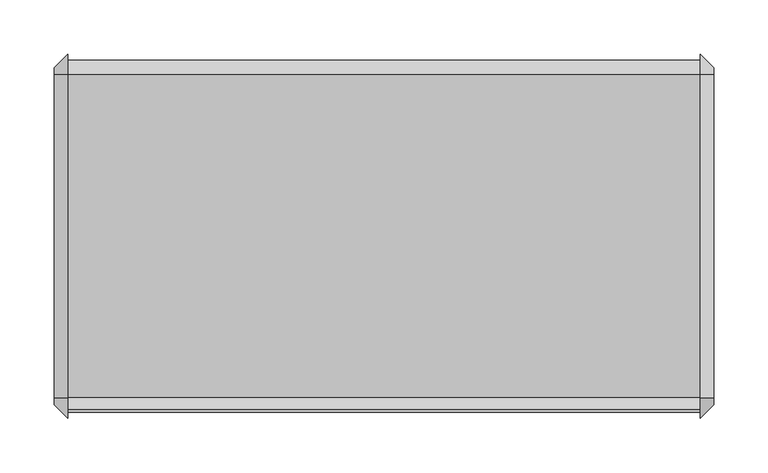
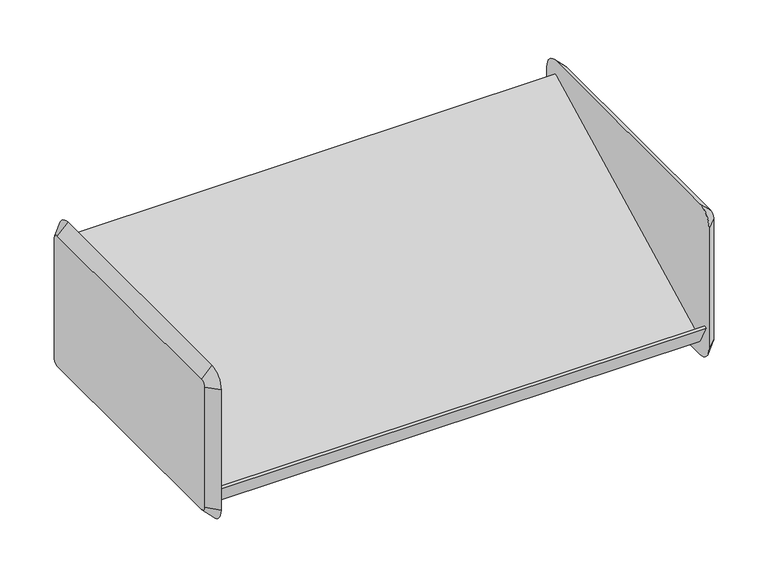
"""IFC4 building model written with IfcOpenShell, lengths in millimetres: furniture geometry."""

import ifcopenshell
import ifcopenshell.guid

model = None  # the IFC model being written
_history = None  # IfcOwnerHistory: only IFC2X3 demands one
_inside = {}  # id of a spatial element -> (the spatial element, [elements in it])
_under = {}  # id of a project, library or spatial element -> (it, [spatial elements below it])
_declared = {}  # id of a project -> (the project, [libraries it declares])
_typed = {}  # id of a type object -> (the type object, [elements of that type])
_made_of = {}  # id of a material, layer set ... -> (it, [elements and type objects made of it])


def new_model(schema):
    """Start an empty IFC model of exactly this schema.

    Asked for "IFC4X3", IfcOpenShell would pick the latest addendum, in which some entities
    have other attributes; the version numbers below select the first issue.
    IFC2X3 requires an IfcOwnerHistory on every rooted entity: one is made here for all.
    """
    global model, _history
    if schema == "IFC4X3":
        model = ifcopenshell.file(schema_version=(4, 3, 0, 0))
    else:
        model = ifcopenshell.file(schema=schema)
    _inside.clear()
    _under.clear()
    _declared.clear()
    _typed.clear()
    _made_of.clear()
    _history = None
    if model.schema == "IFC2X3":
        org = make("IfcOrganization", Name="unknown")
        user = make(
            "IfcPersonAndOrganization",
            ThePerson=make("IfcPerson", FamilyName="unknown"),
            TheOrganization=org,
        )
        app = make(
            "IfcApplication",
            ApplicationDeveloper=org,
            Version="unknown",
            ApplicationFullName="unknown",
            ApplicationIdentifier="unknown",
        )
        _history = make(
            "IfcOwnerHistory",
            OwningUser=user,
            OwningApplication=app,
            ChangeAction="ADDED",
            CreationDate=0,
        )
    return model


def make(cls, **values):
    """One entity of the class cls with the attributes given. An attribute that is None is left unset."""
    return model.create_entity(
        cls, **{name: value for name, value in values.items() if value is not None}
    )


def rooted(cls, **values):
    """An entity with a GlobalId (a new one), such as an element, a storey or a relation."""
    return make(cls, GlobalId=ifcopenshell.guid.new(), OwnerHistory=_history, **values)


def si_unit(unit_type, name, prefix=None):
    """IfcSIUnit, for example si_unit("LENGTHUNIT", "METRE", prefix="MILLI")."""
    return make("IfcSIUnit", UnitType=unit_type, Prefix=prefix, Name=name)


def assignment(units):
    """IfcUnitAssignment: the units of a project."""
    return None if units is None else make("IfcUnitAssignment", Units=units)


def point(xyz):
    """IfcCartesianPoint."""
    return None if xyz is None else make("IfcCartesianPoint", Coordinates=xyz)


def direction(xyz):
    """IfcDirection."""
    return None if xyz is None else make("IfcDirection", DirectionRatios=xyz)


def frame(location, z_axis=None, x_axis=None):
    """IfcAxis2Placement3D, a coordinate frame: its origin and axes. An axis left out is left unset."""
    return make(
        "IfcAxis2Placement3D",
        Location=point(location),
        Axis=direction(z_axis),
        RefDirection=direction(x_axis),
    )


def origin():
    """The frame at (0, 0, 0) with its axes left unset."""
    return frame((0.0, 0.0, 0.0))


def place(relative_to, where):
    """IfcLocalPlacement: puts the frame where relative to a parent placement (None: the world)."""
    return make(
        "IfcLocalPlacement", PlacementRelTo=relative_to, RelativePlacement=where
    )


def context(
    kind, dimensions, precision=None, world=None, true_north=None, identifier=None
):
    """IfcGeometricRepresentationContext, for example the 3D "Model" context."""
    return make(
        "IfcGeometricRepresentationContext",
        ContextIdentifier=identifier,
        ContextType=kind,
        CoordinateSpaceDimension=dimensions,
        Precision=precision,
        WorldCoordinateSystem=world,
        TrueNorth=true_north,
    )


def project(units=None, contexts=None):
    """IfcProject with its units and contexts."""
    return rooted(
        "IfcProject",
        Name="project",
        RepresentationContexts=contexts,
        UnitsInContext=assignment(units),
    )


def spatial(cls, under=None, at=None, **own):
    """A site, building, storey or space (cls), placed at a placement, below another one or the project."""
    s = rooted(cls, ObjectPlacement=at, **own)
    if under is not None:
        _under.setdefault(under.id(), (under, []))[1].append(s)
    return s


def polyline(points):
    """IfcPolyline through the points."""
    return make("IfcPolyline", Points=[point(p) for p in points])


def circle_curve(where, radius):
    """IfcCircle in the frame where."""
    return make("IfcCircle", Position=where, Radius=radius)


def outline(outer, holes=None, kind="AREA"):
    """IfcArbitraryClosedProfileDef: a profile drawn as a closed curve; with holes, ...WithVoids."""
    if holes is None:
        return make("IfcArbitraryClosedProfileDef", ProfileType=kind, OuterCurve=outer)
    return make(
        "IfcArbitraryProfileDefWithVoids",
        ProfileType=kind,
        OuterCurve=outer,
        InnerCurves=holes,
    )


def extrude(swept, where, along, depth):
    """IfcExtrudedAreaSolid: the profile swept, set in the frame where, extruded along a direction by depth."""
    return make(
        "IfcExtrudedAreaSolid",
        SweptArea=swept,
        Position=where,
        ExtrudedDirection=direction(along),
        Depth=depth,
    )


def shape(context_of_items, identifier, shape_type, items):
    """IfcShapeRepresentation: the items that make up one representation, for example the "Body"."""
    return make(
        "IfcShapeRepresentation",
        ContextOfItems=context_of_items,
        RepresentationIdentifier=identifier,
        RepresentationType=shape_type,
        Items=items,
    )


def source(mapping_origin, context_of_items, identifier, shape_type, items):
    """IfcRepresentationMap: a shape defined once, which mapped items show again and again."""
    return make(
        "IfcRepresentationMap",
        MappingOrigin=mapping_origin,
        MappedRepresentation=shape(context_of_items, identifier, shape_type, items),
    )


def transform(
    local_origin,
    x_axis=None,
    y_axis=None,
    z_axis=None,
    scale=None,
    scale2=None,
    scale3=None,
    uniform=True,
):
    """IfcCartesianTransformationOperator3D, or its non-uniform kind. x_axis, y_axis, z_axis: its Axis1, 2, 3."""
    if uniform:
        return make(
            "IfcCartesianTransformationOperator3D",
            Axis1=direction(x_axis),
            Axis2=direction(y_axis),
            LocalOrigin=point(local_origin),
            Scale=scale,
            Axis3=direction(z_axis),
        )
    return make(
        "IfcCartesianTransformationOperator3DnonUniform",
        Axis1=direction(x_axis),
        Axis2=direction(y_axis),
        LocalOrigin=point(local_origin),
        Scale=scale,
        Axis3=direction(z_axis),
        Scale2=scale2,
        Scale3=scale3,
    )


def mapped(mapping_source, mapping_target):
    """IfcMappedItem: shows the shape of a source again, moved by a transform."""
    return make(
        "IfcMappedItem", MappingSource=mapping_source, MappingTarget=mapping_target
    )


def made_of(thing, what):
    """Note that an element or type object is made of a material, layer set ...; save() writes the relation."""
    if what is not None:
        _made_of.setdefault(what.id(), (what, []))[1].append(thing)
    return thing


def element(
    cls,
    number,
    at=None,
    inside=None,
    cuts=None,
    type_object=None,
    material=None,
    context=None,
    identifier="Body",
    shape_type=None,
    held_by="IfcProductDefinitionShape",
    body=None,
    shapes=None,
    **own,
):
    """One element of the class cls, such as IfcWall. Its Tag is "e" and its number.

    at: its placement. inside: the storey or other place that contains it. cuts: it is an
    opening in that element (IfcRelVoidsElement). A single representation is given by context,
    identifier, shape_type and body (its items); several are given by shapes. held_by: the class
    of the entity that holds the representations. save() writes the other relations.
    """
    e = rooted(cls, Tag="e%d" % number, ObjectPlacement=at, **own)
    if body is not None:
        shapes = [shape(context, identifier, shape_type, body)]
    if shapes is not None:
        e.Representation = make(held_by, Representations=shapes)
    if inside is not None:
        _inside.setdefault(inside.id(), (inside, []))[1].append(e)
    if cuts is not None:
        rooted(
            "IfcRelVoidsElement", RelatingBuildingElement=cuts, RelatedOpeningElement=e
        )
    if type_object is not None:
        _typed.setdefault(type_object.id(), (type_object, []))[1].append(e)
    return made_of(e, material)


def aggregate(whole, parts):
    """IfcRelAggregates: a whole, such as a stair, and the parts it consists of."""
    return rooted("IfcRelAggregates", RelatingObject=whole, RelatedObjects=parts)


def save(model, path):
    """Write the relations noted so far, then the file.

    IfcRelAggregates (storeys below a building ...), IfcRelContainedInSpatialStructure (elements
    in a storey), IfcRelDefinesByType, IfcRelAssociatesMaterial and IfcRelDeclares: one each for
    every whole, place, type object, material and project.
    """
    for whole, parts in _under.values():
        aggregate(whole, parts)
    for where, things in _inside.values():
        rooted(
            "IfcRelContainedInSpatialStructure",
            RelatedElements=things,
            RelatingStructure=where,
        )
    for kind, things in _typed.values():
        rooted("IfcRelDefinesByType", RelatedObjects=things, RelatingType=kind)
    for what, things in _made_of.values():
        rooted("IfcRelAssociatesMaterial", RelatedObjects=things, RelatingMaterial=what)
    for by, libraries in _declared.values():
        rooted("IfcRelDeclares", RelatingContext=by, RelatedDefinitions=libraries)
    model.write(path)


def plane_surface(at):
    """IfcPlane: the flat surface through the origin of the frame at, square to its z axis."""
    return make("IfcPlane", Position=at)


def revolved_surface(curve, axis_point, axis_direction):
    """IfcSurfaceOfRevolution: the curve turned about the line through axis_point along axis_direction."""
    return make(
        "IfcSurfaceOfRevolution",
        SweptCurve=make("IfcArbitraryOpenProfileDef", ProfileType="CURVE", Curve=curve),
        AxisPosition=make("IfcAxis1Placement", Location=point(axis_point), Axis=direction(axis_direction)),
    )


def advanced_brep(points, edges, surfaces, faces):
    """IfcAdvancedBrep: a solid bounded by faces that lie on surfaces and meet in shared edges.

    An edge is (start, end): straight between two places in points (the first is 0);
    or (start, end, curve); or (start, end, curve, False) where it runs against its curve.
    A face is (place in surfaces, loops), or (place, loops, False) where it looks against
    its surface's normal. A loop lists edges by number (the first is 1), with a minus sign
    where the edge is run from its end to its start. The first loop is the outer one.
    """
    corners = [point(p) for p in points]
    vertices = [make("IfcVertexPoint", VertexGeometry=c) for c in corners]
    made = []
    for start, end, *more in edges:
        made.append(
            make(
                "IfcEdgeCurve",
                EdgeStart=vertices[start],
                EdgeEnd=vertices[end],
                EdgeGeometry=more[0] if more else make("IfcPolyline", Points=[corners[start], corners[end]]),
                SameSense=more[1] if len(more) > 1 else True,
            )
        )
    hull = []
    for where, loops, *sense in faces:
        bounds = []
        for j, loop in enumerate(loops):
            ring = [make("IfcOrientedEdge", EdgeElement=made[abs(k) - 1], Orientation=k > 0) for k in loop]
            bounds.append(
                make(
                    "IfcFaceOuterBound" if j == 0 else "IfcFaceBound",
                    Bound=make("IfcEdgeLoop", EdgeList=ring),
                    Orientation=True,
                )
            )
        hull.append(make("IfcAdvancedFace", Bounds=bounds, FaceSurface=surfaces[where], SameSense=sense[0] if sense else True))
    return make("IfcAdvancedBrep", Outer=make("IfcClosedShell", CfsFaces=hull))


def furniture_aef38361(model_context):
    return source(origin(), model_context, "Body", "SolidModel", [
        advanced_brep(
        [(180.8579955, 161.925, 1485.9), (180.8579955, -136.525, 1485.9), (180.8579955, -142.875, 1479.55), (180.8579955, -142.875, 1327.15), (180.8579955, -136.525, 1320.8), (180.8579955, 161.925, 1320.8), (180.8579955, 168.275, 1327.15), (180.8579955, 168.275, 1479.55), (168.1579955, 161.925, 1498.6), (168.1579955, 180.975, 1479.55), (168.1579955, 180.975, 1327.15), (168.1579955, 161.925, 1308.1), (168.1579955, -136.525, 1308.1), (168.1579955, -155.575, 1327.15), (168.1579955, -155.575, 1479.55), (168.1579955, -136.525, 1498.6)],
        [
            (0, 1),
            (1, 2, circle_curve(frame((180.8579955, -136.525, 1479.55), z_axis=(1.0, 2.0730084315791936e-12, -2.1742607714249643e-12), x_axis=(2.1742640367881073e-12, 0.0, 1.0)), 6.35)),
            (2, 3),
            (3, 4, circle_curve(frame((180.8579955, -136.525, 1327.15), z_axis=(1.0, 2.059685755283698e-12, 2.025046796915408e-12), x_axis=(2.059647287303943e-12, -1.0, 0.0)), 6.35)),
            (4, 5),
            (5, 6, circle_curve(frame((180.8579955, 161.925, 1327.15), z_axis=(1.0, 2.088995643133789e-12, -2.1103119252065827e-12), x_axis=(-2.1103612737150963e-12, 0.0, -1.0)), 6.35)),
            (6, 7),
            (7, 0, circle_curve(frame((180.8579955, 161.925, 1479.55), z_axis=(1.0, 2.075672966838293e-12, 1.9824142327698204e-12), x_axis=(-2.075662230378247e-12, 1.0, 0.0)), 6.35)),
            (8, 9, circle_curve(frame((168.1579955, 161.925, 1479.55), z_axis=(-1.0, -2.075672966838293e-12, -1.9824142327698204e-12), x_axis=(-2.075662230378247e-12, 1.0, 0.0)), 19.05)),
            (9, 10),
            (10, 11, circle_curve(frame((168.1579955, 161.925, 1327.15), z_axis=(-1.0, -2.088995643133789e-12, 2.1103119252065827e-12), x_axis=(-2.1103612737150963e-12, 0.0, -1.0)), 19.05)),
            (11, 12),
            (12, 13, circle_curve(frame((168.1579955, -136.525, 1327.15), z_axis=(-1.0, -2.059685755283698e-12, -2.025046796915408e-12), x_axis=(2.059647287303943e-12, -1.0, 0.0)), 19.05)),
            (13, 14),
            (14, 15, circle_curve(frame((168.1579955, -136.525, 1479.55), z_axis=(-1.0, -2.0730084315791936e-12, 2.1742607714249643e-12), x_axis=(2.1742640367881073e-12, 0.0, 1.0)), 19.05)),
            (15, 8),
            (15, 1),
            (0, 8),
            (14, 2),
            (13, 3),
            (12, 4),
            (11, 5),
            (10, 6),
            (9, 7),
        ],
        [
            plane_surface(frame((180.8579955, 12.7, 1403.35), z_axis=(1.0, 0.0, 0.0), x_axis=(0.0, -1.0, 0.0))),
            plane_surface(frame((168.1579955, 12.7, 1403.35), z_axis=(-1.0, 0.0, 0.0), x_axis=(0.0, -1.0, 0.0))),
            plane_surface(frame((168.1579955, 12.7, 1498.6), z_axis=(0.7071067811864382, 0.0, 0.7071067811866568), x_axis=(0.0, -1.0, 0.0))),
            revolved_surface(polyline([(180.8579955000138, -136.525, 1485.8999999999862), (168.1579955, -136.525, 1498.6)]), (187.2079955, -136.525, 1479.55), (-1.0, -2.0730084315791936e-12, 2.1742607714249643e-12)),
            plane_surface(frame((168.1579955, -155.575, 1403.35), z_axis=(0.707106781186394, -0.7071067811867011, 0.0), x_axis=(0.0, 0.0, -1.0))),
            revolved_surface(polyline([(180.85799550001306, -142.87499999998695, 1327.15), (168.1579955, -155.575, 1327.15)]), (187.2079955, -136.525, 1327.15), (-1.0, -2.059685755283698e-12, -2.025046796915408e-12)),
            plane_surface(frame((168.1579955, 12.7, 1308.1), z_axis=(0.7071067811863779, 0.0, -0.7071067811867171), x_axis=(0.0, 1.0, 0.0))),
            revolved_surface(polyline([(180.8579955, 161.925, 1320.8), (168.15799549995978, 161.925, 1308.0999999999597)]), (187.2079955, 161.925, 1327.15), (-1.0, -2.088995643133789e-12, 2.1103119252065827e-12)),
            plane_surface(frame((168.1579955, 180.975, 1403.35), z_axis=(0.707106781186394, 0.7071067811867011, 0.0), x_axis=(0.0, 0.0, 1.0))),
            revolved_surface(polyline([(180.8579955, 168.27500000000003, 1479.55), (168.15799549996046, 180.97500000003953, 1479.55)]), (187.2079955, 161.925, 1479.55), (-1.0, -2.075672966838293e-12, -1.9824142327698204e-12)),
        ],
        [
            (0, [[1, 2, 3, 4, 5, 6, 7, 8]]),
            (1, [[9, 10, 11, 12, 13, 14, 15, 16]]),
            (2, [[-16, 17, -1, 18]]),
            (3, [[-15, 19, -2, -17]]),
            (4, [[-14, 20, -3, -19]]),
            (5, [[-13, 21, -4, -20]]),
            (6, [[-12, 22, -5, -21]]),
            (7, [[-11, 23, -6, -22]]),
            (8, [[-10, 24, -7, -23]]),
            (9, [[-9, -18, -8, -24]]),
        ],
    ),
        advanced_brep(
        [(-428.7420045, -136.525, 1485.9), (-428.7420045, 161.925, 1485.9), (-428.7420045, 168.275, 1479.55), (-428.7420045, 168.275, 1327.15), (-428.7420045, 161.925, 1320.8), (-428.7420045, -136.525, 1320.8), (-428.7420045, -142.875, 1327.15), (-428.7420045, -142.875, 1479.55), (-416.0420045, -136.525, 1498.6), (-416.0420045, -155.575, 1479.55), (-416.0420045, -155.575, 1327.15), (-416.0420045, -136.525, 1308.1), (-416.0420045, 161.925, 1308.1), (-416.0420045, 180.975, 1327.15), (-416.0420045, 180.975, 1479.55), (-416.0420045, 161.925, 1498.6)],
        [
            (0, 1),
            (1, 2, circle_curve(frame((-428.7420045, 161.925, 1479.55), z_axis=(-1.0, 0.0, 0.0), x_axis=(0.0, 0.0, 1.0)), 6.35)),
            (2, 3),
            (3, 4, circle_curve(frame((-428.7420045, 161.925, 1327.15), z_axis=(-1.0, 0.0, 0.0), x_axis=(0.0, 1.0, 0.0)), 6.35)),
            (4, 5),
            (5, 6, circle_curve(frame((-428.7420045, -136.525, 1327.15), z_axis=(-1.0, 0.0, 0.0), x_axis=(0.0, 0.0, -1.0)), 6.35)),
            (6, 7),
            (7, 0, circle_curve(frame((-428.7420045, -136.525, 1479.55), z_axis=(-1.0, 0.0, 0.0), x_axis=(0.0, -1.0, 0.0)), 6.35)),
            (8, 9, circle_curve(frame((-416.0420045, -136.525, 1479.55), z_axis=(1.0, 0.0, 0.0), x_axis=(0.0, -1.0, 0.0)), 19.05)),
            (9, 10),
            (10, 11, circle_curve(frame((-416.0420045, -136.525, 1327.15), z_axis=(1.0, 0.0, 0.0), x_axis=(0.0, 0.0, -1.0)), 19.05)),
            (11, 12),
            (12, 13, circle_curve(frame((-416.0420045, 161.925, 1327.15), z_axis=(1.0, 0.0, 0.0), x_axis=(0.0, 1.0, 0.0)), 19.05)),
            (13, 14),
            (14, 15, circle_curve(frame((-416.0420045, 161.925, 1479.55), z_axis=(1.0, 0.0, 0.0), x_axis=(0.0, 0.0, 1.0)), 19.05)),
            (15, 8),
            (15, 1),
            (0, 8),
            (14, 2),
            (13, 3),
            (12, 4),
            (11, 5),
            (10, 6),
            (9, 7),
        ],
        [
            plane_surface(frame((-428.7420045, 12.7, 1403.35), z_axis=(-1.0, 0.0, 0.0), x_axis=(0.0, -1.0, 0.0))),
            plane_surface(frame((-416.0420045, 12.7, 1403.35), z_axis=(1.0, 0.0, 0.0), x_axis=(0.0, -1.0, 0.0))),
            plane_surface(frame((-416.0420045, 12.7, 1498.6), z_axis=(-0.7071067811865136, 0.0, 0.7071067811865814), x_axis=(0.0, 1.0, 0.0))),
            revolved_surface(polyline([(-428.7420045, 161.925, 1485.8999999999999), (-416.0420045, 161.925, 1498.6)]), (-435.0920045, 161.925, 1479.55), (1.0, 0.0, 0.0)),
            plane_surface(frame((-416.0420045, 180.975, 1403.35), z_axis=(-0.7071067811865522, 0.7071067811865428, 0.0), x_axis=(0.0, 0.0, -1.0))),
            revolved_surface(polyline([(-428.7420045, 168.27499999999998, 1327.15), (-416.0420045, 180.975, 1327.15)]), (-435.0920045, 161.925, 1327.15), (1.0, 0.0, 0.0)),
            plane_surface(frame((-416.0420045, 12.7, 1308.1), z_axis=(-0.707106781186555, 0.0, -0.70710678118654), x_axis=(0.0, -1.0, 0.0))),
            revolved_surface(polyline([(-428.7420045, -136.525, 1320.8), (-416.0420045, -136.525, 1308.1)]), (-435.0920045, -136.525, 1327.15), (1.0, 0.0, 0.0)),
            plane_surface(frame((-416.0420045, -155.575, 1403.35), z_axis=(-0.7071067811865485, -0.7071067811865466, 0.0), x_axis=(0.0, 0.0, 1.0))),
            revolved_surface(polyline([(-428.7420045, -142.87499999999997, 1479.55), (-416.0420045, -155.575, 1479.55)]), (-435.0920045, -136.525, 1479.55), (1.0, 0.0, 0.0)),
        ],
        [
            (0, [[1, 2, 3, 4, 5, 6, 7, 8]]),
            (1, [[9, 10, 11, 12, 13, 14, 15, 16]]),
            (2, [[-16, 17, -1, 18]]),
            (3, [[-15, 19, -2, -17]]),
            (4, [[-14, 20, -3, -19]]),
            (5, [[-13, 21, -4, -20]]),
            (6, [[-12, 22, -5, -21]]),
            (7, [[-11, 23, -6, -22]]),
            (8, [[-10, 24, -7, -23]]),
            (9, [[-9, -18, -8, -24]]),
        ],
    ),
        extrude(outline(polyline([(-137.2094993, 1325.0179666), (-149.845093, 1349.4467844), (-147.0173828, 1350.8907216), (-135.8404765, 1329.2820334), (162.5893131, 1481.6717194), (175.2453599, 1458.0470972), (172.4171401, 1456.6028998), (161.2606869, 1477.4282806), (-137.2094993, 1325.0179666)])), frame((-416.0420045, 0.0, 0.0), z_axis=(1.0, 0.0, 0.0), x_axis=(0.0, 1.0, 0.0)), (0.0, 0.0, 1.0), 584.2),
    ])


if __name__ == "__main__":
    model = new_model("IFC4")
    model_context = context("Model", 3, world=origin())
    ifc_project = project(units=[si_unit("LENGTHUNIT", "METRE", prefix="MILLI")], contexts=[model_context])
    site = spatial("IfcSite", under=ifc_project)
    building = spatial("IfcBuilding", under=site)
    placement = place(None, origin())
    furniture_shape = furniture_aef38361(model_context)
    element("IfcFurniture", 1, ObjectType="HermanMiller_ActionOffice_A3220_B-StyleStorageDisplay : Display 13\"D x 24\"W", at=placement, inside=building, context=model_context, shape_type="MappedRepresentation", body=[
        mapped(furniture_shape, transform((0.0, 0.0, 0.0), x_axis=(1.0, 0.0, 0.0), y_axis=(0.0, 1.0, 0.0), z_axis=(0.0, 0.0, 1.0))),
    ])
    save(model, "model.ifc")
